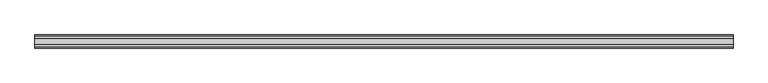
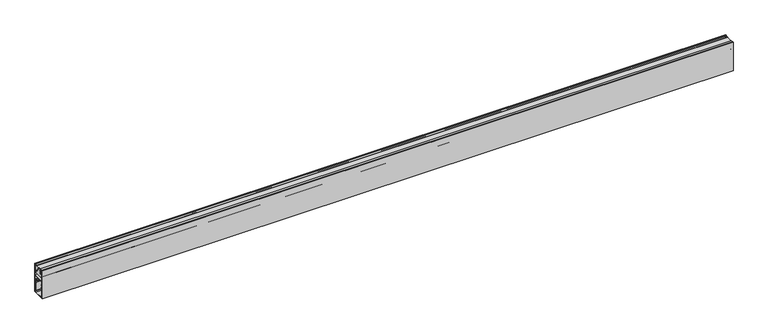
"""IFC4 building model written with IfcOpenShell, lengths in millimetres: light fixture geometry, SF-LI-SL : 6-250-80-3500."""

from ifc_helpers import new_model, si_unit, point, frame, frame_2d, origin, place, context, project, spatial, polyline, circle_curve, trimmed, segment, composite_curve, outline, extrude, source, transform, mapped, element, save


def light_fixture_a85f2b84(model_context):
    return source(origin(), model_context, "Body", "SweptSolid", [
        extrude(outline(polyline([(16.4919982, -609.6), (16.4919982, -685.7997212), (14.4814042, -685.7997212), (14.4814042, -652.2511544), (11.3066494, -652.2511544), (11.3066494, -650.4868413), (14.4814042, -650.4868413), (14.4814042, -641.35007), (-14.4814042, -641.35007), (-14.4814042, -650.4868413), (-11.3066494, -650.4868413), (-11.3066494, -652.2511544), (-14.4814042, -652.2511544), (-14.4814042, -685.8), (-16.5273013, -685.8), (-16.5273013, -609.6), (-14.4814042, -609.6), (-14.4814042, -629.6378556), (-12.7179317, -629.6378556), (-12.7179317, -631.4374717), (-14.4814042, -631.4374717), (-14.4814042, -639.0570515), (14.4814042, -639.0570515), (14.4814042, -631.4374717), (12.6826286, -631.4374717), (12.6826286, -629.6378556), (14.4814042, -629.6378556), (14.4814042, -609.6), (16.4919982, -609.6)])), frame((-1758.95, 0.0, 0.0), z_axis=(1.0, 0.0, 0.0), x_axis=(0.0, 1.0, 0.0)), (0.0, 0.0, 1.0), 1758.95),
        extrude(outline(polyline([(0.0, 10.6630062), (0.0, -11.0499052), (-1758.95, -11.0499052), (-1758.95, 10.6630062), (0.0, 10.6630062)])), frame((0.0, 0.0, -612.2621783), z_axis=(0.0, 0.0, 1.0), x_axis=(1.0, 0.0, 0.0)), (0.0, 0.0, 1.0), 0.9853757),
        extrude(outline(composite_curve([segment(polyline([(14.2364085, -684.4823458), (14.2364085, -685.7515686), (-14.2013395, -685.7515686), (-14.2013395, -684.4823458), (-12.9681897, -684.4823458), (-12.9681897, -681.697718), (-14.2013395, -681.697718), (-14.2013395, -658.6298078)]), True, "CONTINUOUS"), segment(trimmed(circle_curve(frame_2d((-15.2677071, -657.498738)), 1.5544962), [point((-14.2013395, -658.6298078))], [point((-14.2013395, -656.3676683))], True, "CARTESIAN"), True, "CONTINUOUS"), segment(trimmed(circle_curve(frame_2d((-1.5482091, -655.9407284)), 12.6603312), [point((-14.2013395, -656.3676683))], [point((-13.8299858, -652.867953))], False, "CARTESIAN"), True, "CONTINUOUS"), segment(polyline([(-13.8299858, -652.867953), (-12.9281268, -652.867953), (-12.9281268, -655.8728)]), True, "CONTINUOUS"), segment(trimmed(circle_curve(frame_2d((-15.3387278, -657.4813245)), 2.8979905), [point((-12.9281268, -655.8728))], [point((-12.9289367, -659.0910622))], False, "CARTESIAN"), True, "CONTINUOUS"), segment(polyline([(-12.9289367, -659.0910622), (-12.9289367, -680.4290689), (-11.6993255, -680.4290689), (-11.6993255, -684.4823458), (11.6993255, -684.4823458), (11.6993255, -680.4290689), (12.9631957, -680.4290689), (12.9631957, -659.0898491)]), True, "CONTINUOUS"), segment(trimmed(circle_curve(frame_2d((15.3737968, -657.4813245)), 2.8979905), [point((12.9631957, -659.0898491))], [point((12.9631957, -655.8728))], False, "CARTESIAN"), True, "CONTINUOUS"), segment(polyline([(12.9631957, -655.8728), (12.9631957, -652.867953), (13.8650547, -652.867953)]), True, "CONTINUOUS"), segment(trimmed(circle_curve(frame_2d((1.583278, -655.9407284)), 12.6603312), [point((13.8650547, -652.867953))], [point((14.2364085, -656.3676683))], False, "CARTESIAN"), True, "CONTINUOUS"), segment(trimmed(circle_curve(frame_2d((15.302776, -657.498738)), 1.5544962), [point((14.2364085, -656.3676683))], [point((14.2364085, -658.6298078))], True, "CARTESIAN"), True, "CONTINUOUS"), segment(polyline([(14.2364085, -658.6298078), (14.2364085, -681.697718), (12.9681897, -681.697718), (12.9681897, -684.4823458), (14.2364085, -684.4823458)]), True, "CONTINUOUS")], self_intersect=False)), frame((-1758.95, 0.0, 0.0), z_axis=(1.0, 0.0, 0.0), x_axis=(0.0, 1.0, 0.0)), (0.0, 0.0, 1.0), 1758.95),
        extrude(outline(composite_curve([segment(polyline([(9.0340764, -631.9696124), (-8.9739288, -631.9696124)]), True, "CONTINUOUS"), segment(trimmed(circle_curve(frame_2d((-8.9739288, -629.5064147)), 2.4631976), [point((-8.9739288, -631.9696124))], [point((-11.4371264, -629.5064147))], False, "CARTESIAN"), True, "CONTINUOUS"), segment(polyline([(-11.4371264, -629.5064147), (-14.1822398, -629.5064147), (-14.1822398, -625.6350886), (-12.7747558, -625.6350886), (-12.7747558, -614.7258593), (-13.9553701, -614.7258593)]), True, "CONTINUOUS"), segment(trimmed(circle_curve(frame_2d((-13.2817026, -613.5643164)), 1.342762), [point((-13.9553701, -614.7258593))], [point((-13.9553701, -612.4027736))], False, "CARTESIAN"), True, "CONTINUOUS"), segment(polyline([(-13.9553701, -612.4027736), (-12.7747558, -612.4027736), (-12.7747558, -611.2771248), (-14.1822398, -611.2771248), (-14.1822398, -610.2915074), (-7.8128291, -610.2915074), (-7.8128291, -611.2768025), (-11.753768, -611.2768025), (-11.753768, -625.6345246), (-4.6456075, -625.6345246), (-4.6456075, -616.9778014), (4.7155426, -616.9778014), (4.7155426, -625.6345246), (11.753768, -625.6345246), (11.753768, -611.2768025), (7.8832476, -611.2768025), (7.8832476, -610.2915074), (14.1815952, -610.2915074), (14.1815952, -611.2769637), (12.7745141, -611.2769637), (12.7745141, -612.4027736), (13.9553701, -612.4027736)]), True, "CONTINUOUS"), segment(trimmed(circle_curve(frame_2d((13.2817026, -613.5643164)), 1.342762), [point((13.9553701, -612.4027736))], [point((13.9553701, -614.7258593))], False, "CARTESIAN"), True, "CONTINUOUS"), segment(polyline([(13.9553701, -614.7258593), (12.7745141, -614.7258593), (12.7745141, -625.6345246), (14.1815952, -625.6345246), (14.1815952, -629.5064147), (11.497274, -629.5064147)]), True, "CONTINUOUS"), segment(trimmed(circle_curve(frame_2d((9.0340764, -629.5064147)), 2.4631976), [point((11.497274, -629.5064147))], [point((9.0340764, -631.9696124))], False, "CARTESIAN"), True, "CONTINUOUS")], self_intersect=False)), frame((-1758.95, 0.0, 0.0), z_axis=(1.0, 0.0, 0.0), x_axis=(0.0, 1.0, 0.0)), (0.0, 0.0, 1.0), 1758.95),
    ])


if __name__ == "__main__":
    model = new_model("IFC4")
    model_context = context("Model", 3, world=origin())
    ifc_project = project(units=[si_unit("LENGTHUNIT", "METRE", prefix="MILLI")], contexts=[model_context])
    site = spatial("IfcSite", under=ifc_project)
    building = spatial("IfcBuilding", under=site)
    placement = place(None, origin())
    light_fixture_shape = light_fixture_a85f2b84(model_context)
    element("IfcLightFixture", 1, ObjectType="SF-LI-SL : 6-250-80-3500", at=placement, inside=building, context=model_context, shape_type="MappedRepresentation", body=[
        mapped(light_fixture_shape, transform((0.0, 0.0, 0.0), x_axis=(1.0, 0.0, 0.0), y_axis=(0.0, 1.0, 0.0), z_axis=(0.0, 0.0, 1.0))),
    ])
    save(model, "model.ifc")
